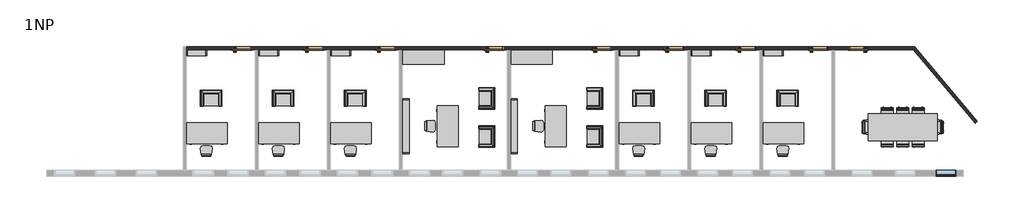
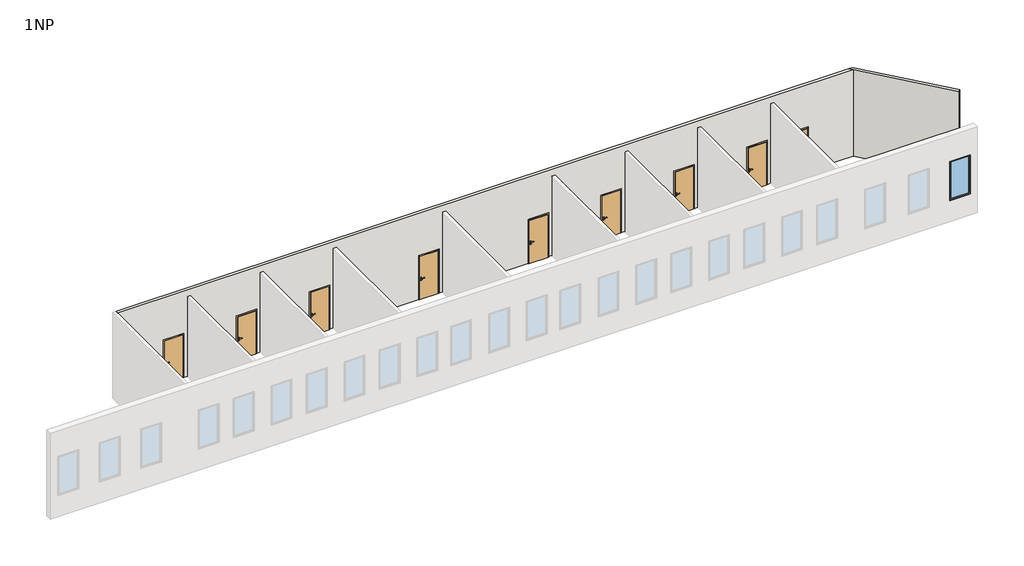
# One storey, part 2 of 2: 45 furniture elements, 9 doors, 2 walls, 1 window.
"""IFC4 building model written with IfcOpenShell, lengths in millimetres."""

from ifc_helpers import new_model, si_unit, origin, place, context, project, spatial, faceted_brep, transform, mapped, element, save
from components import door_900_x_2000_4c66a93d, door_900_x_2000_c64c60ef, furniture_b7f3823b, furniture_3b363349, furniture_ccc35c8f, furniture_2764bdef, furniture_0915_x_0254_x_1830mm_1d5e155e, furniture_1200_x_3050mm_930714f4, furniture_1800_x_900mm_2fcb012d, furniture_1830_x_0610mm_1080a9db, furniture_2440_x_0305_x_2134mm_59c1a9e4, window_0915_x_1830mm_7ee91fd3

model = new_model("IFC4")

# Units and contexts
model_context = context("Model", 3, world=origin())
ifc_project = project(units=[si_unit("LENGTHUNIT", "METRE", prefix="MILLI")], contexts=[model_context])

# Site, building, storey
site = spatial("IfcSite", under=ifc_project)
building = spatial("IfcBuilding", under=site)
storey = spatial("IfcBuildingStorey", under=building, Name="1NP", Elevation=0.0)

# Doors
placement = place(None, origin())
door_900_x_2000_shape = door_900_x_2000_4c66a93d(model_context)
element("IfcDoor", 1, ObjectType="Jednokridle oboustrana zaruben : 900 x 2000", at=placement, inside=storey, context=model_context, shape_type="MappedRepresentation", body=[
    mapped(door_900_x_2000_shape, transform((29135.9255273, 791.5551306, 0.0), x_axis=(1.0, 0.0, 0.0), y_axis=(0.0, 1.0, 0.0), z_axis=(0.0, 0.0, 1.0))),
])
door_900_x_2000_2_shape = door_900_x_2000_c64c60ef(model_context)
element("IfcDoor", 2, ObjectType="Jednokridle oboustrana zaruben : 900 x 2000", at=placement, inside=storey, context=model_context, shape_type="MappedRepresentation", body=[
    mapped(door_900_x_2000_2_shape, transform((1699.9255273, 791.5551306, 0.0), x_axis=(-1.0, 0.0, 0.0), y_axis=(0.0, -1.0, 0.0), z_axis=(0.0, 0.0, 1.0))),
])
element("IfcDoor", 3, ObjectType="Jednokridle oboustrana zaruben : 900 x 2000", at=placement, inside=storey, context=model_context, shape_type="MappedRepresentation", body=[
    mapped(door_900_x_2000_2_shape, transform((4899.9255273, 791.5551306, 0.0), x_axis=(-1.0, 0.0, 0.0), y_axis=(0.0, -1.0, 0.0), z_axis=(0.0, 0.0, 1.0))),
])
element("IfcDoor", 4, ObjectType="Jednokridle oboustrana zaruben : 900 x 2000", at=placement, inside=storey, context=model_context, shape_type="MappedRepresentation", body=[
    mapped(door_900_x_2000_2_shape, transform((8099.9255273, 791.5551306, 0.0), x_axis=(-1.0, 0.0, 0.0), y_axis=(0.0, -1.0, 0.0), z_axis=(0.0, 0.0, 1.0))),
])
element("IfcDoor", 5, ObjectType="Jednokridle oboustrana zaruben : 900 x 2000", at=placement, inside=storey, context=model_context, shape_type="MappedRepresentation", body=[
    mapped(door_900_x_2000_2_shape, transform((12899.9255273, 791.5551306, 0.0), x_axis=(-1.0, 0.0, 0.0), y_axis=(0.0, -1.0, 0.0), z_axis=(0.0, 0.0, 1.0))),
])
element("IfcDoor", 6, ObjectType="Jednokridle oboustrana zaruben : 900 x 2000", at=placement, inside=storey, context=model_context, shape_type="MappedRepresentation", body=[
    mapped(door_900_x_2000_2_shape, transform((20899.9255273, 791.5551306, 0.0), x_axis=(-1.0, 0.0, 0.0), y_axis=(0.0, -1.0, 0.0), z_axis=(0.0, 0.0, 1.0))),
])
element("IfcDoor", 7, ObjectType="Jednokridle oboustrana zaruben : 900 x 2000", at=placement, inside=storey, context=model_context, shape_type="MappedRepresentation", body=[
    mapped(door_900_x_2000_2_shape, transform((24099.9255273, 791.5551306, 0.0), x_axis=(-1.0, 0.0, 0.0), y_axis=(0.0, -1.0, 0.0), z_axis=(0.0, 0.0, 1.0))),
])
element("IfcDoor", 8, ObjectType="Jednokridle oboustrana zaruben : 900 x 2000", at=placement, inside=storey, context=model_context, shape_type="MappedRepresentation", body=[
    mapped(door_900_x_2000_2_shape, transform((27299.9255273, 791.5551306, 0.0), x_axis=(-1.0, 0.0, 0.0), y_axis=(0.0, -1.0, 0.0), z_axis=(0.0, 0.0, 1.0))),
])
element("IfcDoor", 9, ObjectType="Jednokridle oboustrana zaruben : 900 x 2000", at=placement, inside=storey, context=model_context, shape_type="MappedRepresentation", body=[
    mapped(door_900_x_2000_2_shape, transform((17699.9255273, 791.5551306, 0.0), x_axis=(-1.0, 0.0, 0.0), y_axis=(0.0, -1.0, 0.0), z_axis=(0.0, 0.0, 1.0))),
])

# Furniture
furniture_shape = furniture_b7f3823b(model_context)
element("IfcFurniture", 10, ObjectType="Prac.zidleH : Prac.zidleHranata", at=placement, inside=storey, context=model_context, shape_type="MappedRepresentation", body=[
    mapped(furniture_shape, transform((31897.6750188, -2087.6223918, 0.0), x_axis=(-1.0000000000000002, 0.0, 0.0), y_axis=(0.0, -1.0000000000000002, 0.0), z_axis=(0.0, 0.0, 1.0))),
])
element("IfcFurniture", 11, ObjectType="Prac.zidleH : Prac.zidleHranata", at=placement, inside=storey, context=model_context, shape_type="MappedRepresentation", body=[
    mapped(furniture_shape, transform((31615.6933794, -3325.5141951, 0.0), x_axis=(1.0000000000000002, 0.0, 0.0), y_axis=(0.0, 1.0000000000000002, 0.0), z_axis=(0.0, 0.0, 1.0))),
])
element("IfcFurniture", 12, ObjectType="Prac.zidleH : Prac.zidleHranata", at=placement, inside=storey, context=model_context, shape_type="MappedRepresentation", body=[
    mapped(furniture_shape, transform((30527.9250188, -2087.6223918, 0.0), x_axis=(-1.0000000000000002, 0.0, 0.0), y_axis=(0.0, -1.0000000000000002, 0.0), z_axis=(0.0, 0.0, 1.0))),
])
element("IfcFurniture", 13, ObjectType="Prac.zidleH : Prac.zidleHranata", at=placement, inside=storey, context=model_context, shape_type="MappedRepresentation", body=[
    mapped(furniture_shape, transform((30245.9433794, -3325.5141951, 0.0), x_axis=(1.0000000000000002, 0.0, 0.0), y_axis=(0.0, 1.0000000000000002, 0.0), z_axis=(0.0, 0.0, 1.0))),
])
element("IfcFurniture", 14, ObjectType="Prac.zidleH : Prac.zidleHranata", at=placement, inside=storey, context=model_context, shape_type="MappedRepresentation", body=[
    mapped(furniture_shape, transform((31212.8000188, -2087.6223918, 0.0), x_axis=(-1.0000000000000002, 0.0, 0.0), y_axis=(0.0, -1.0000000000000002, 0.0), z_axis=(0.0, 0.0, 1.0))),
])
element("IfcFurniture", 15, ObjectType="Prac.zidleH : Prac.zidleHranata", at=placement, inside=storey, context=model_context, shape_type="MappedRepresentation", body=[
    mapped(furniture_shape, transform((30930.8183794, -3325.5141951, 0.0), x_axis=(1.0000000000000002, 0.0, 0.0), y_axis=(0.0, 1.0000000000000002, 0.0), z_axis=(0.0, 0.0, 1.0))),
])
furniture_2_shape = furniture_3b363349(model_context)
element("IfcFurniture", 16, ObjectType="Prac.zidleP : Prac.zidlePodrucky", at=placement, inside=storey, context=model_context, shape_type="MappedRepresentation", body=[
    mapped(furniture_2_shape, transform((32615.6301008, -2847.5591131, 0.0), x_axis=(0.0, 1.0000000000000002, 0.0), y_axis=(-1.0000000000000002, 0.0, 0.0), z_axis=(0.0, 0.0, 1.0))),
])
element("IfcFurniture", 17, ObjectType="Prac.zidleP : Prac.zidlePodrucky", at=placement, inside=storey, context=model_context, shape_type="MappedRepresentation", body=[
    mapped(furniture_2_shape, transform((29527.7382975, -2565.5774738, 0.0), x_axis=(0.0, -1.0000000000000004, 0.0), y_axis=(1.0000000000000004, 0.0, 0.0), z_axis=(0.0, 0.0, 1.0))),
])
furniture_3_shape = furniture_ccc35c8f(model_context)
element("IfcFurniture", 18, ObjectType="Prac.zidle : prac.zidleZaobl", at=placement, inside=storey, context=model_context, shape_type="MappedRepresentation", body=[
    mapped(furniture_3_shape, transform((149.9255273, -3938.9177984, 0.0), x_axis=(1.0, 0.0, 0.0), y_axis=(0.0, 1.0, 0.0), z_axis=(0.0, 0.0, 1.0))),
])
element("IfcFurniture", 19, ObjectType="Prac.zidle : prac.zidleZaobl", at=placement, inside=storey, context=model_context, shape_type="MappedRepresentation", body=[
    mapped(furniture_3_shape, transform((3349.9255273, -3938.9177984, 0.0), x_axis=(1.0, 0.0, 0.0), y_axis=(0.0, 1.0, 0.0), z_axis=(0.0, 0.0, 1.0))),
])
element("IfcFurniture", 20, ObjectType="Prac.zidle : prac.zidleZaobl", at=placement, inside=storey, context=model_context, shape_type="MappedRepresentation", body=[
    mapped(furniture_3_shape, transform((6549.9255273, -3938.9177984, 0.0), x_axis=(1.0, 0.0, 0.0), y_axis=(0.0, 1.0, 0.0), z_axis=(0.0, 0.0, 1.0))),
])
element("IfcFurniture", 21, ObjectType="Prac.zidle : prac.zidleZaobl", at=placement, inside=storey, context=model_context, shape_type="MappedRepresentation", body=[
    mapped(furniture_3_shape, transform((9920.3097542, -2661.8601839, 0.0), x_axis=(0.0, -1.0000000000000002, 0.0), y_axis=(1.0000000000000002, 0.0, 0.0), z_axis=(0.0, 0.0, 1.0))),
])
element("IfcFurniture", 22, ObjectType="Prac.zidle : prac.zidleZaobl", at=placement, inside=storey, context=model_context, shape_type="MappedRepresentation", body=[
    mapped(furniture_3_shape, transform((19349.9255273, -3938.9177984, 0.0), x_axis=(1.0, 0.0, 0.0), y_axis=(0.0, 1.0, 0.0), z_axis=(0.0, 0.0, 1.0))),
])
element("IfcFurniture", 23, ObjectType="Prac.zidle : prac.zidleZaobl", at=placement, inside=storey, context=model_context, shape_type="MappedRepresentation", body=[
    mapped(furniture_3_shape, transform((22549.9255273, -3938.9177984, 0.0), x_axis=(1.0, 0.0, 0.0), y_axis=(0.0, 1.0, 0.0), z_axis=(0.0, 0.0, 1.0))),
])
element("IfcFurniture", 24, ObjectType="Prac.zidle : prac.zidleZaobl", at=placement, inside=storey, context=model_context, shape_type="MappedRepresentation", body=[
    mapped(furniture_3_shape, transform((25749.9255273, -3938.9177984, 0.0), x_axis=(1.0, 0.0, 0.0), y_axis=(0.0, 1.0, 0.0), z_axis=(0.0, 0.0, 1.0))),
])
element("IfcFurniture", 25, ObjectType="Prac.zidle : prac.zidleZaobl", at=placement, inside=storey, context=model_context, shape_type="MappedRepresentation", body=[
    mapped(furniture_3_shape, transform((14720.3097542, -2661.8601839, 0.0), x_axis=(0.0, -1.0, 0.0), y_axis=(1.0, 0.0, 0.0), z_axis=(0.0, 0.0, 1.0))),
])
furniture_4_shape = furniture_2764bdef(model_context)
element("IfcFurniture", 26, ObjectType="KresilkoCorbusier : KresilkoCorbusier", at=placement, inside=storey, context=model_context, shape_type="MappedRepresentation", body=[
    mapped(furniture_4_shape, transform((2989.3517568, -1887.3719186, 0.0), x_axis=(1.0, 0.0, 0.0), y_axis=(0.0, 1.0, 0.0), z_axis=(0.0, 0.0, 1.0))),
])
element("IfcFurniture", 27, ObjectType="KresilkoCorbusier : KresilkoCorbusier", at=placement, inside=storey, context=model_context, shape_type="MappedRepresentation", body=[
    mapped(furniture_4_shape, transform((-210.6482432, -1887.3719186, 0.0), x_axis=(1.0, 0.0, 0.0), y_axis=(0.0, 1.0, 0.0), z_axis=(0.0, 0.0, 1.0))),
])
element("IfcFurniture", 28, ObjectType="KresilkoCorbusier : KresilkoCorbusier", at=placement, inside=storey, context=model_context, shape_type="MappedRepresentation", body=[
    mapped(furniture_4_shape, transform((6189.3517568, -1887.3719186, 0.0), x_axis=(1.0, 0.0, 0.0), y_axis=(0.0, 1.0, 0.0), z_axis=(0.0, 0.0, 1.0))),
])
element("IfcFurniture", 29, ObjectType="KresilkoCorbusier : KresilkoCorbusier", at=placement, inside=storey, context=model_context, shape_type="MappedRepresentation", body=[
    mapped(furniture_4_shape, transform((12135.7353038, -861.9944392, 0.0), x_axis=(0.0, -1.0000000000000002, 0.0), y_axis=(1.0000000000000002, 0.0, 0.0), z_axis=(0.0, 0.0, 1.0))),
])
element("IfcFurniture", 30, ObjectType="KresilkoCorbusier : KresilkoCorbusier", at=placement, inside=storey, context=model_context, shape_type="MappedRepresentation", body=[
    mapped(furniture_4_shape, transform((18989.3517568, -1887.3719186, 0.0), x_axis=(1.0, 0.0, 0.0), y_axis=(0.0, 1.0, 0.0), z_axis=(0.0, 0.0, 1.0))),
])
element("IfcFurniture", 31, ObjectType="KresilkoCorbusier : KresilkoCorbusier", at=placement, inside=storey, context=model_context, shape_type="MappedRepresentation", body=[
    mapped(furniture_4_shape, transform((22189.3517568, -1887.3719186, 0.0), x_axis=(1.0, 0.0, 0.0), y_axis=(0.0, 1.0, 0.0), z_axis=(0.0, 0.0, 1.0))),
])
element("IfcFurniture", 32, ObjectType="KresilkoCorbusier : KresilkoCorbusier", at=placement, inside=storey, context=model_context, shape_type="MappedRepresentation", body=[
    mapped(furniture_4_shape, transform((25389.3517568, -1887.3719186, 0.0), x_axis=(1.0, 0.0, 0.0), y_axis=(0.0, 1.0, 0.0), z_axis=(0.0, 0.0, 1.0))),
])
element("IfcFurniture", 33, ObjectType="KresilkoCorbusier : KresilkoCorbusier", at=placement, inside=storey, context=model_context, shape_type="MappedRepresentation", body=[
    mapped(furniture_4_shape, transform((12135.7353038, -2557.1944392, 0.0), x_axis=(0.0, -1.0000000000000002, 0.0), y_axis=(1.0000000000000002, 0.0, 0.0), z_axis=(0.0, 0.0, 1.0))),
])
element("IfcFurniture", 34, ObjectType="KresilkoCorbusier : KresilkoCorbusier", at=placement, inside=storey, context=model_context, shape_type="MappedRepresentation", body=[
    mapped(furniture_4_shape, transform((16935.7353038, -861.9944392, 0.0), x_axis=(0.0, -1.0, 0.0), y_axis=(1.0, 0.0, 0.0), z_axis=(0.0, 0.0, 1.0))),
])
element("IfcFurniture", 35, ObjectType="KresilkoCorbusier : KresilkoCorbusier", at=placement, inside=storey, context=model_context, shape_type="MappedRepresentation", body=[
    mapped(furniture_4_shape, transform((16935.7353038, -2557.1944392, 0.0), x_axis=(0.0, -1.0, 0.0), y_axis=(1.0, 0.0, 0.0), z_axis=(0.0, 0.0, 1.0))),
])
furniture_0915_x_0254_x_1830mm_shape = furniture_0915_x_0254_x_1830mm_1d5e155e(model_context)
element("IfcFurniture", 36, ObjectType="PolicovaSkrin : 0915 x 0254 x 1830mm", at=placement, inside=storey, context=model_context, shape_type="MappedRepresentation", body=[
    mapped(furniture_0915_x_0254_x_1830mm_shape, transform((-284.0744727, 900.1051306, 0.0), x_axis=(1.0, 0.0, 0.0), y_axis=(0.0, 1.0, 0.0), z_axis=(0.0, 0.0, 1.0))),
])
element("IfcFurniture", 37, ObjectType="PolicovaSkrin : 0915 x 0254 x 1830mm", at=placement, inside=storey, context=model_context, shape_type="MappedRepresentation", body=[
    mapped(furniture_0915_x_0254_x_1830mm_shape, transform((2915.9255273, 900.1051306, 0.0), x_axis=(1.0, 0.0, 0.0), y_axis=(0.0, 1.0, 0.0), z_axis=(0.0, 0.0, 1.0))),
])
element("IfcFurniture", 38, ObjectType="PolicovaSkrin : 0915 x 0254 x 1830mm", at=placement, inside=storey, context=model_context, shape_type="MappedRepresentation", body=[
    mapped(furniture_0915_x_0254_x_1830mm_shape, transform((6115.9255273, 900.1051306, 0.0), x_axis=(1.0, 0.0, 0.0), y_axis=(0.0, 1.0, 0.0), z_axis=(0.0, 0.0, 1.0))),
])
element("IfcFurniture", 39, ObjectType="PolicovaSkrin : 0915 x 0254 x 1830mm", at=placement, inside=storey, context=model_context, shape_type="MappedRepresentation", body=[
    mapped(furniture_0915_x_0254_x_1830mm_shape, transform((18915.9255273, 900.1051306, 0.0), x_axis=(1.0, 0.0, 0.0), y_axis=(0.0, 1.0, 0.0), z_axis=(0.0, 0.0, 1.0))),
])
element("IfcFurniture", 40, ObjectType="PolicovaSkrin : 0915 x 0254 x 1830mm", at=placement, inside=storey, context=model_context, shape_type="MappedRepresentation", body=[
    mapped(furniture_0915_x_0254_x_1830mm_shape, transform((22115.9255273, 900.1051306, 0.0), x_axis=(1.0, 0.0, 0.0), y_axis=(0.0, 1.0, 0.0), z_axis=(0.0, 0.0, 1.0))),
])
element("IfcFurniture", 41, ObjectType="PolicovaSkrin : 0915 x 0254 x 1830mm", at=placement, inside=storey, context=model_context, shape_type="MappedRepresentation", body=[
    mapped(furniture_0915_x_0254_x_1830mm_shape, transform((25315.9255273, 900.1051306, 0.0), x_axis=(1.0, 0.0, 0.0), y_axis=(0.0, 1.0, 0.0), z_axis=(0.0, 0.0, 1.0))),
])
furniture_1200_x_3050mm_shape = furniture_1200_x_3050mm_930714f4(model_context)
element("IfcFurniture", 42, ObjectType="Konf.stul : 1200 x 3050mm", at=placement, inside=storey, context=model_context, shape_type="MappedRepresentation", body=[
    mapped(furniture_1200_x_3050mm_shape, transform((31071.6841991, -2706.5682935, 0.0), x_axis=(-1.0000000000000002, 0.0, 0.0), y_axis=(0.0, -1.0000000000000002, 0.0), z_axis=(0.0, 0.0, 1.0))),
])
furniture_1800_x_900mm_shape = furniture_1800_x_900mm_2fcb012d(model_context)
element("IfcFurniture", 43, ObjectType="Prac.stul : 1800 x 900mm", at=placement, inside=storey, context=model_context, shape_type="MappedRepresentation", body=[
    mapped(furniture_1800_x_900mm_shape, transform((1058.4255273, -2534.8677984, 0.0), x_axis=(-1.0, 0.0, 0.0), y_axis=(0.0, -1.0, 0.0), z_axis=(0.0, 0.0, 1.0))),
])
element("IfcFurniture", 44, ObjectType="Prac.stul : 1800 x 900mm", at=placement, inside=storey, context=model_context, shape_type="MappedRepresentation", body=[
    mapped(furniture_1800_x_900mm_shape, transform((4258.4255273, -2534.8677984, 0.0), x_axis=(-1.0, 0.0, 0.0), y_axis=(0.0, -1.0, 0.0), z_axis=(0.0, 0.0, 1.0))),
])
element("IfcFurniture", 45, ObjectType="Prac.stul : 1800 x 900mm", at=placement, inside=storey, context=model_context, shape_type="MappedRepresentation", body=[
    mapped(furniture_1800_x_900mm_shape, transform((7458.4255273, -2534.8677984, 0.0), x_axis=(-1.0, 0.0, 0.0), y_axis=(0.0, -1.0, 0.0), z_axis=(0.0, 0.0, 1.0))),
])
element("IfcFurniture", 46, ObjectType="Prac.stul : 1800 x 900mm", at=placement, inside=storey, context=model_context, shape_type="MappedRepresentation", body=[
    mapped(furniture_1800_x_900mm_shape, transform((11324.3597542, -3570.3601839, 0.0), x_axis=(0.0, 1.0000000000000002, 0.0), y_axis=(-1.0000000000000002, 0.0, 0.0), z_axis=(0.0, 0.0, 1.0))),
])
element("IfcFurniture", 47, ObjectType="Prac.stul : 1800 x 900mm", at=placement, inside=storey, context=model_context, shape_type="MappedRepresentation", body=[
    mapped(furniture_1800_x_900mm_shape, transform((20258.4255273, -2534.8677984, 0.0), x_axis=(-1.0, 0.0, 0.0), y_axis=(0.0, -1.0, 0.0), z_axis=(0.0, 0.0, 1.0))),
])
element("IfcFurniture", 48, ObjectType="Prac.stul : 1800 x 900mm", at=placement, inside=storey, context=model_context, shape_type="MappedRepresentation", body=[
    mapped(furniture_1800_x_900mm_shape, transform((23458.4255273, -2534.8677984, 0.0), x_axis=(-1.0, 0.0, 0.0), y_axis=(0.0, -1.0, 0.0), z_axis=(0.0, 0.0, 1.0))),
])
element("IfcFurniture", 49, ObjectType="Prac.stul : 1800 x 900mm", at=placement, inside=storey, context=model_context, shape_type="MappedRepresentation", body=[
    mapped(furniture_1800_x_900mm_shape, transform((26658.4255273, -2534.8677984, 0.0), x_axis=(-1.0, 0.0, 0.0), y_axis=(0.0, -1.0, 0.0), z_axis=(0.0, 0.0, 1.0))),
])
element("IfcFurniture", 50, ObjectType="Prac.stul : 1800 x 900mm", at=placement, inside=storey, context=model_context, shape_type="MappedRepresentation", body=[
    mapped(furniture_1800_x_900mm_shape, transform((16124.3597542, -3570.3601839, 0.0), x_axis=(0.0, 1.0, 0.0), y_axis=(-1.0, 0.0, 0.0), z_axis=(0.0, 0.0, 1.0))),
])
furniture_1830_x_0610mm_shape = furniture_1830_x_0610mm_1080a9db(model_context)
element("IfcFurniture", 51, ObjectType="SkrinNizka : 1830 x 0610mm", at=placement, inside=storey, context=model_context, shape_type="MappedRepresentation", body=[
    mapped(furniture_1830_x_0610mm_shape, transform((9713.881265, 412.7248027, 0.0), x_axis=(1.0, 0.0, 0.0), y_axis=(0.0, 1.0, 0.0), z_axis=(0.0, 0.0, 1.0))),
])
element("IfcFurniture", 52, ObjectType="SkrinNizka : 1830 x 0610mm", at=placement, inside=storey, context=model_context, shape_type="MappedRepresentation", body=[
    mapped(furniture_1830_x_0610mm_shape, transform((14513.881265, 412.7248027, 0.0), x_axis=(1.0, 0.0, 0.0), y_axis=(0.0, 1.0, 0.0), z_axis=(0.0, 0.0, 1.0))),
])
furniture_2440_x_0305_x_2134mm_shape = furniture_2440_x_0305_x_2134mm_59c1a9e4(model_context)
element("IfcFurniture", 53, ObjectType="PolicovaSkrin : 2440 x 0305 x 2134mm", at=placement, inside=storey, context=model_context, shape_type="MappedRepresentation", body=[
    mapped(furniture_2440_x_0305_x_2134mm_shape, transform((9315.7255273, -2670.3601839, 0.0), x_axis=(0.0, -1.0000000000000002, 0.0), y_axis=(1.0000000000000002, 0.0, 0.0), z_axis=(0.0, 0.0, 1.0))),
])
element("IfcFurniture", 54, ObjectType="PolicovaSkrin : 2440 x 0305 x 2134mm", at=placement, inside=storey, context=model_context, shape_type="MappedRepresentation", body=[
    mapped(furniture_2440_x_0305_x_2134mm_shape, transform((14115.7255273, -2670.3601839, 0.0), x_axis=(0.0, -1.0, 0.0), y_axis=(1.0, 0.0, 0.0), z_axis=(0.0, 0.0, 1.0))),
])

# Walls
element("IfcWall", 55, ObjectType="Interior - 138mm Partition (1-hr)", at=placement, inside=storey, context=model_context, shape_type="Brep", body=[
    faceted_brep([(34392.224105, -2450.6280843, 0.0), (31613.6017157, 860.8051306, 0.0), (31613.6017157, 860.8051306, 4000.0), (34392.224105, -2450.6280843, 4000.0), (34286.1269496, -2539.6541682, 0.0), (34286.1269496, -2539.6541682, 4000.0), (31549.018105, 722.3051306, 4000.0), (31432.8028061, 860.8051306, 4000.0), (31432.8028061, 860.8051306, 0.0), (31549.018105, 722.3051306, 0.0)], [[[0, 1, 2, 3]], [[4, 5, 6, 7, 8, 9]], [[1, 0, 4, 9, 8]], [[3, 2, 7, 6, 5]], [[0, 3, 5, 4]], [[2, 1, 8, 7]]]),
])
element("IfcWall", 56, ObjectType="Interior - 138mm Partition (1-hr)", at=placement, inside=storey, context=model_context, shape_type="Brep", body=[
    faceted_brep([(17269.9255273, 860.8051306, 2050.0), (17269.9255273, 860.8051306, 0.0), (13369.9255273, 860.8051306, 0.0), (13369.9255273, 860.8051306, 2050.0), (12469.9255273, 860.8051306, 2050.0), (12469.9255273, 860.8051306, 0.0), (8569.9255273, 860.8051306, 0.0), (8569.9255273, 860.8051306, 2050.0), (7669.9255273, 860.8051306, 2050.0), (7669.9255273, 860.8051306, 0.0), (5369.9255273, 860.8051306, 0.0), (5369.9255273, 860.8051306, 2050.0), (4469.9255273, 860.8051306, 2050.0), (4469.9255273, 860.8051306, 0.0), (2169.9255273, 860.8051306, 0.0), (2169.9255273, 860.8051306, 2050.0), (1269.9255273, 860.8051306, 2050.0), (1269.9255273, 860.8051306, 0.0), (-741.5744727, 860.8051306, 0.0), (-741.5744727, 860.8051306, 4000.0), (31432.8028061, 860.8051306, 4000.0), (31432.8028061, 860.8051306, 0.0), (29565.9255273, 860.8051306, 0.0), (29565.9255273, 860.8051306, 2050.0), (28665.9255273, 860.8051306, 2050.0), (28665.9255273, 860.8051306, 0.0), (27769.9255273, 860.8051306, 0.0), (27769.9255273, 860.8051306, 2050.0), (26869.9255273, 860.8051306, 2050.0), (26869.9255273, 860.8051306, 0.0), (24569.9255273, 860.8051306, 0.0), (24569.9255273, 860.8051306, 2050.0), (23669.9255273, 860.8051306, 2050.0), (23669.9255273, 860.8051306, 0.0), (21369.9255273, 860.8051306, 0.0), (21369.9255273, 860.8051306, 2050.0), (20469.9255273, 860.8051306, 2050.0), (20469.9255273, 860.8051306, 0.0), (18169.9255273, 860.8051306, 0.0), (18169.9255273, 860.8051306, 2050.0), (13369.9255273, 722.3051306, 0.0), (13519.9255273, 722.3051306, 0.0), (13658.4255273, 722.3051306, 0.0), (17269.9255273, 722.3051306, 0.0), (17269.9255273, 722.3051306, 2050.0), (18169.9255273, 722.3051306, 2050.0), (18169.9255273, 722.3051306, 0.0), (18319.9255273, 722.3051306, 0.0), (18458.4255273, 722.3051306, 0.0), (20469.9255273, 722.3051306, 0.0), (20469.9255273, 722.3051306, 2050.0), (21369.9255273, 722.3051306, 2050.0), (21369.9255273, 722.3051306, 0.0), (21519.9255273, 722.3051306, 0.0), (21658.4255273, 722.3051306, 0.0), (23669.9255273, 722.3051306, 0.0), (23669.9255273, 722.3051306, 2050.0), (24569.9255273, 722.3051306, 2050.0), (24569.9255273, 722.3051306, 0.0), (24719.9255273, 722.3051306, 0.0), (24858.4255273, 722.3051306, 0.0), (26869.9255273, 722.3051306, 0.0), (26869.9255273, 722.3051306, 2050.0), (27769.9255273, 722.3051306, 2050.0), (27769.9255273, 722.3051306, 0.0), (27919.9255273, 722.3051306, 0.0), (28058.4255273, 722.3051306, 0.0), (28665.9255273, 722.3051306, 0.0), (28665.9255273, 722.3051306, 2050.0), (29565.9255273, 722.3051306, 2050.0), (29565.9255273, 722.3051306, 0.0), (31549.018105, 722.3051306, 0.0), (31549.018105, 722.3051306, 4000.0), (-741.5744727, 722.3051306, 4000.0), (-741.5744727, 722.3051306, 0.0), (1269.9255273, 722.3051306, 0.0), (1269.9255273, 722.3051306, 2050.0), (2169.9255273, 722.3051306, 2050.0), (2169.9255273, 722.3051306, 0.0), (2319.9255273, 722.3051306, 0.0), (2458.4255273, 722.3051306, 0.0), (4469.9255273, 722.3051306, 0.0), (4469.9255273, 722.3051306, 2050.0), (5369.9255273, 722.3051306, 2050.0), (5369.9255273, 722.3051306, 0.0), (5519.9255273, 722.3051306, 0.0), (5658.4255273, 722.3051306, 0.0), (7669.9255273, 722.3051306, 0.0), (7669.9255273, 722.3051306, 2050.0), (8569.9255273, 722.3051306, 2050.0), (8569.9255273, 722.3051306, 0.0), (8719.9255273, 722.3051306, 0.0), (8858.4255273, 722.3051306, 0.0), (12469.9255273, 722.3051306, 0.0), (12469.9255273, 722.3051306, 2050.0), (13369.9255273, 722.3051306, 2050.0)], [[[0, 1, 2, 3, 4, 5, 6, 7, 8, 9, 10, 11, 12, 13, 14, 15, 16, 17, 18, 19, 20, 21, 22, 23, 24, 25, 26, 27, 28, 29, 30, 31, 32, 33, 34, 35, 36, 37, 38, 39]], [[40, 41, 42, 43, 44, 45, 46, 47, 48, 49, 50, 51, 52, 53, 54, 55, 56, 57, 58, 59, 60, 61, 62, 63, 64, 65, 66, 67, 68, 69, 70, 71, 72, 73, 74, 75, 76, 77, 78, 79, 80, 81, 82, 83, 84, 85, 86, 87, 88, 89, 90, 91, 92, 93, 94, 95]], [[71, 70, 22, 21]], [[18, 17, 75, 74]], [[10, 9, 87, 86, 85, 84]], [[14, 13, 81, 80, 79, 78]], [[6, 5, 93, 92, 91, 90]], [[2, 1, 43, 42, 41, 40]], [[34, 33, 55, 54, 53, 52]], [[30, 29, 61, 60, 59, 58]], [[26, 25, 67, 66, 65, 64]], [[38, 37, 49, 48, 47, 46]], [[20, 19, 73, 72]], [[21, 20, 72, 71]], [[19, 18, 74, 73]], [[23, 22, 70, 69]], [[24, 23, 69, 68]], [[25, 24, 68, 67]], [[82, 81, 13, 12]], [[83, 82, 12, 11]], [[84, 83, 11, 10]], [[76, 75, 17, 16]], [[77, 76, 16, 15]], [[78, 77, 15, 14]], [[88, 87, 9, 8]], [[89, 88, 8, 7]], [[90, 89, 7, 6]], [[94, 93, 5, 4]], [[95, 94, 4, 3]], [[40, 95, 3, 2]], [[50, 49, 37, 36]], [[51, 50, 36, 35]], [[52, 51, 35, 34]], [[56, 55, 33, 32]], [[57, 56, 32, 31]], [[58, 57, 31, 30]], [[62, 61, 29, 28]], [[63, 62, 28, 27]], [[64, 63, 27, 26]], [[44, 43, 1, 0]], [[45, 44, 0, 39]], [[46, 45, 39, 38]]]),
])

# Window
window_0915_x_1830mm_shape = window_0915_x_1830mm_7ee91fd3(model_context)
element("IfcWindow", 57, ObjectType="Pevne : 0915 x 1830mm", at=placement, inside=storey, context=model_context, shape_type="MappedRepresentation", body=[
    mapped(window_0915_x_1830mm_shape, transform((32998.1755273, -4745.4448694, 665.0), x_axis=(-1.0, 0.0, 0.0), y_axis=(0.0, -1.0, 0.0), z_axis=(0.0, 0.0, 1.0))),
])

save(model, "model.ifc")
